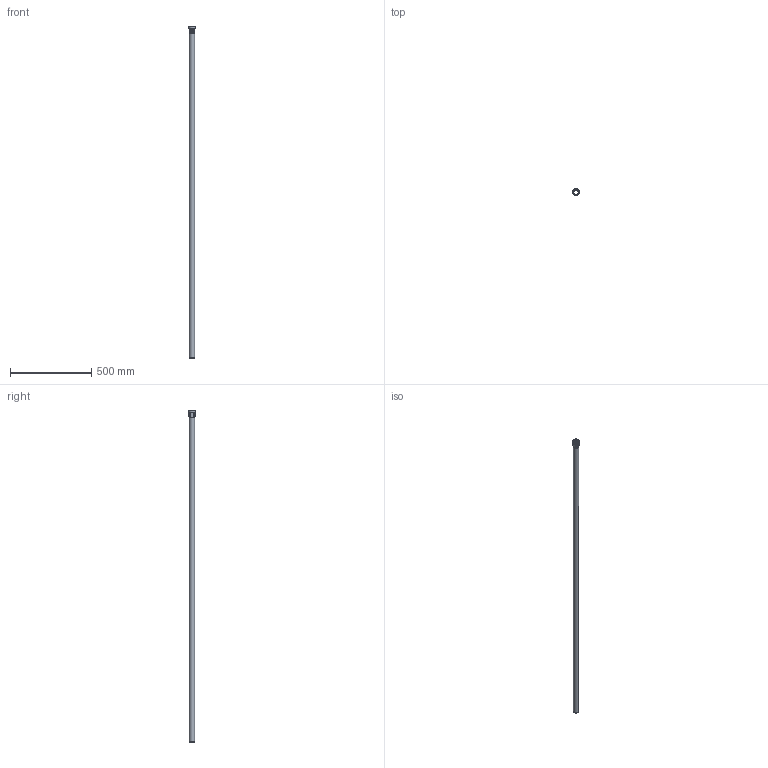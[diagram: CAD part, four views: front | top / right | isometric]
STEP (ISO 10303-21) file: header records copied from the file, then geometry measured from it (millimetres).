
FILE_DESCRIPTION(/* description */ (''),/* implementation_level */ '2;1');
FILE_NAME(/* name */ 'Z:\Geberit\Export\NewStep\390006.stp',/* time_stamp */ '2014-04-02T08:07:55+02:00',/* author */ ('ML'),/* organization */ (''),/* preprocessor_version */ 'ST-DEVELOPER v15.2',/* originating_system */ 'Autodesk Inventor 2014',/* authorisation */ '');
FILE_SCHEMA (('AUTOMOTIVE_DESIGN { 1 0 10303 214 3 1 1 }'));
Length unit declared in the file: millimetre
Products named in the file (3): 861664; 861580ohne; 390006
Bounding box: 41.8 x 41.8 x 2044.3 mm (x, y, z)
Volume: 390636.9 mm3; surface area: 391646.2 mm2
Topology: 2 solids, 2 shells, 47 faces, 104 edges, 71 vertices
Faces by surface type: torus 24, cylinder 11, plane 10, cone 2
Full cylindrical faces by diameter (mm): 28.15 x2, 32.15 x2, 32.8 x2, 34.8 x1, 36.8 x2, 37.8 x1, 41.8 x1
Entity records: 1971 total; most frequent: CARTESIAN_POINT 930, DIRECTION 182, ORIENTED_EDGE 174, AXIS2_PLACEMENT_3D 91, EDGE_CURVE 87, EDGE_LOOP 78, VERTEX_POINT 71, STYLED_ITEM 49
